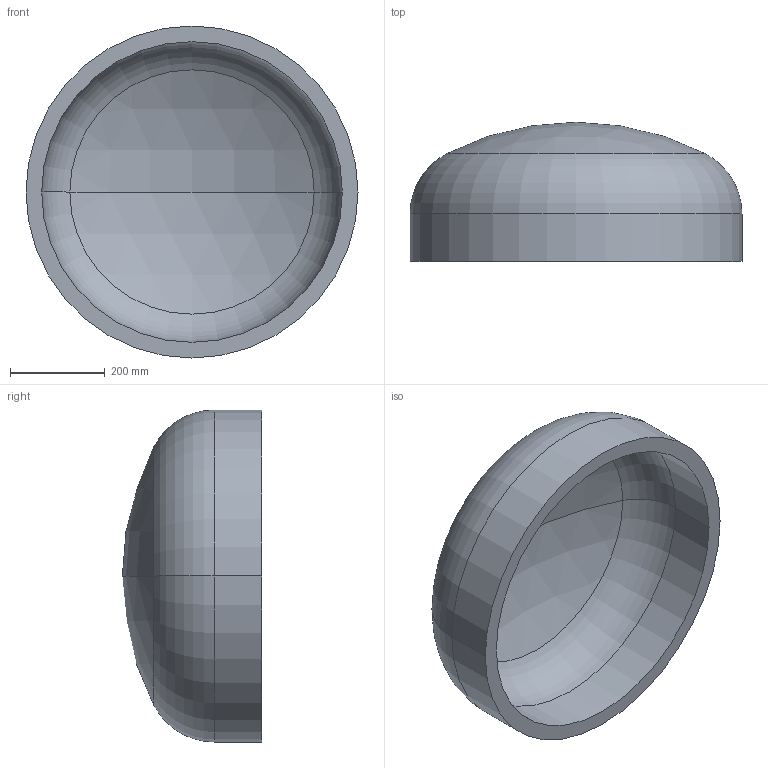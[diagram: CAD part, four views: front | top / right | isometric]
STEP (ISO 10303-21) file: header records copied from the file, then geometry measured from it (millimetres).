
FILE_DESCRIPTION (( 'STEP AP203' ), '1' );
FILE_NAME ('DIN 28013 Korbbogenform_-_Boden DIN 28013 - 700 x 100 - I - s=33.step', '2016-07-01T08:06:46', ( '' ), ( '' ), 'SwSTEP 2.0', 'SolidWorks 2013', '' );
FILE_SCHEMA (( 'CONFIG_CONTROL_DESIGN' ));
Length unit declared in the file: millimetre
Products named in the file (1): DIN 28013 Korbbogenform_-_Boden DIN 28013 - 700 x 100 - I - s=33
Bounding box: 700 x 293.44 x 700 mm (x, y, z)
Volume: 23536856.4 mm3; surface area: 1497906.2 mm2
Topology: 1 solids, 1 shells, 13 faces, 24 edges, 14 vertices
Faces by surface type: torus 4, cylinder 4, sphere 4, plane 1
Entity records: 407 total; most frequent: DIRECTION 72, CARTESIAN_POINT 52, ORIENTED_EDGE 48, AXIS2_PLACEMENT_3D 34, EDGE_CURVE 24, CIRCLE 20, VERTEX_POINT 14, EDGE_LOOP 14
